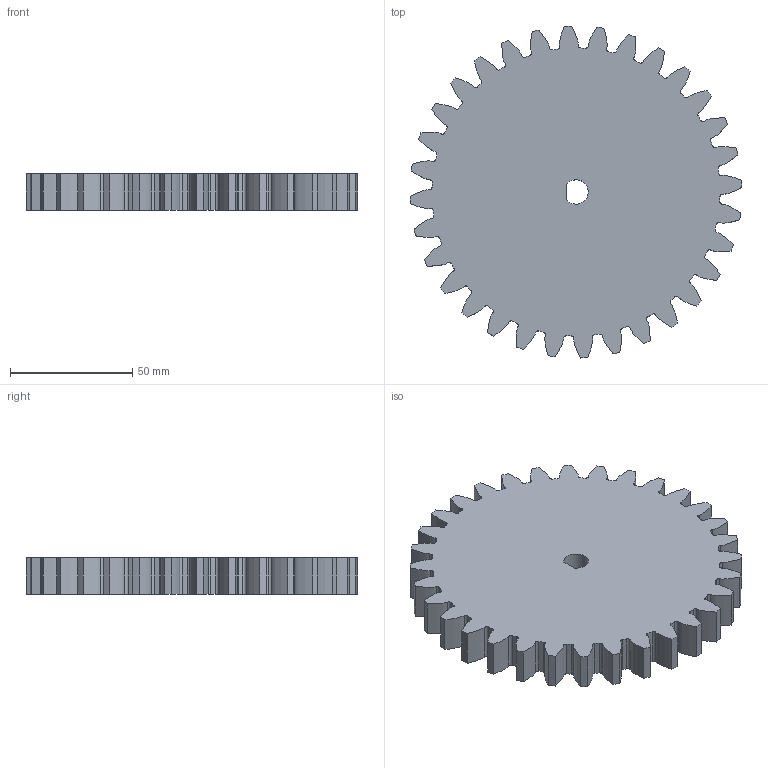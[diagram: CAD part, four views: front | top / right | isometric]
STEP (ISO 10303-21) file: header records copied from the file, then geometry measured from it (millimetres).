
FILE_DESCRIPTION (( 'STEP AP203' ), '1' );
FILE_NAME ('Pignon denture droite m=4 Z=32.STEP', '2025-09-18T12:05:42', ( '' ), ( '' ), 'SwSTEP 2.0', 'SolidWorks 2019', '' );
FILE_SCHEMA (( 'CONFIG_CONTROL_DESIGN' ));
Length unit declared in the file: millimetre
Products named in the file (1): Pignon denture droite m=4 Z=32
Bounding box: 135.95 x 135.95 x 15 mm (x, y, z)
Volume: 189705.2 mm3; surface area: 37858.7 mm2
Topology: 1 solids, 1 shells, 212 faces, 630 edges, 420 vertices
Faces by surface type: cylinder 145, bspline 64, plane 3
Entity records: 8221 total; most frequent: CARTESIAN_POINT 2607, ORIENTED_EDGE 1260, DIRECTION 1090, EDGE_CURVE 630, AXIS2_PLACEMENT_3D 439, VERTEX_POINT 420, CIRCLE 290, EDGE_LOOP 214
